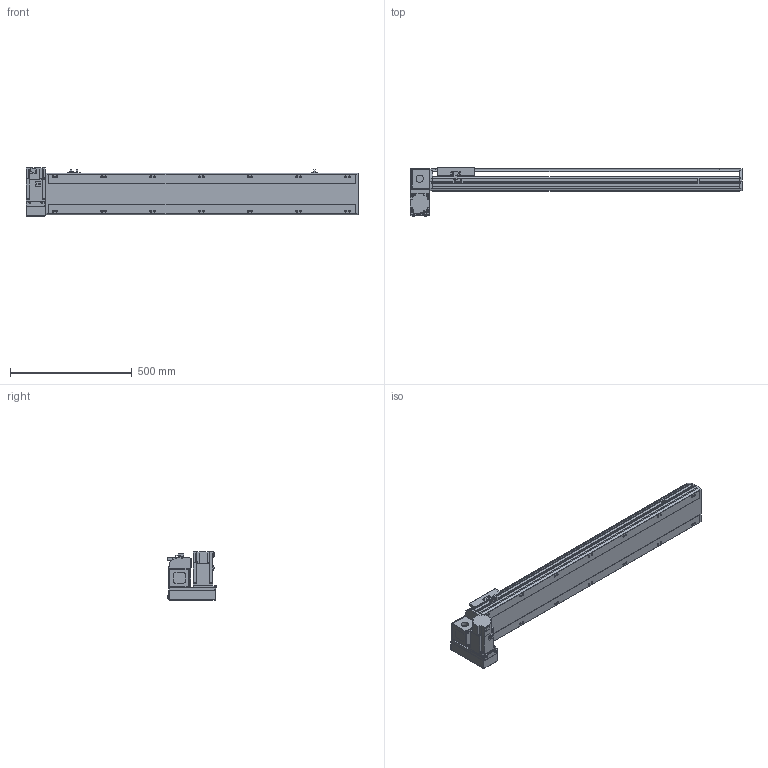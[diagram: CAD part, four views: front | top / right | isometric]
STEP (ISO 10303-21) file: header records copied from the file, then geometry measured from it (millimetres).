
FILE_DESCRIPTION(/* description */ ('STEP AP214'),/* implementation_level */ '2;1');
FILE_NAME(/* name */ 'PBS170-P40-S1000-LD-T75-C1-N(0)',/* time_stamp */ '2022-06-07T09:51:22+02:00',/* author */ ('License CC BY-ND 4.0'),/* organization */ ('CADENAS'),/* preprocessor_version */ 'ST-DEVELOPER v18.102',/* originating_system */ 'PARTsolutions',/* authorisation */ ' ');
FILE_SCHEMA (('AUTOMOTIVE_DESIGN {1 0 10303 214 3 1 1}'));
Length unit declared in the file: millimetre
Products named in the file (7): PBS170-P40-S1000-LD-T75-C1-N(0); PBS170_sensor; PBS170_plant; PBS170_sliser; T75-p1; PBS170T-LD_motors; PBS170-S1000()_body
Assembly tree (8 placements, depth 2):
  PBS170-P40-S1000-LD-T75-C1-N(0)
    PBS170_sensor  x3
    PBS170_plant
    PBS170_sliser
    T75-p1
    PBS170T-LD_motors
    PBS170-S1000()_body
Bounding box: 1363 x 201 x 197.3 mm (x, y, z)
Volume: 10992665.2 mm3; surface area: 1439294.7 mm2
Topology: 8 solids, 8 shells, 1066 faces, 2835 edges, 1848 vertices
Faces by surface type: plane 681, cylinder 331, cone 44, sphere 8, torus 2
Full cylindrical faces by diameter (mm): 3.242 x4, 4 x2, 4.4 x4, 4.5 x6, 4.917 x4, 6 x9, 6.647 x22, 7 x2, 7.5 x4, 8 x8, 8.5 x14, 10 x4, 10.5 x14, 11 x2, 30 x2, 40 x1, 70 x1
Entity records: 30660 total; most frequent: CARTESIAN_POINT 5601, DIRECTION 5230, ORIENTED_EDGE 4968, EDGE_CURVE 2484, AXIS2_PLACEMENT_3D 1807, VERTEX_POINT 1706, LINE 1616, VECTOR 1616
